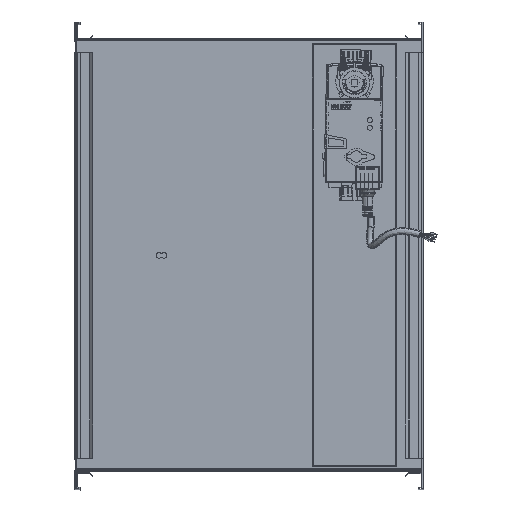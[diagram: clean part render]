
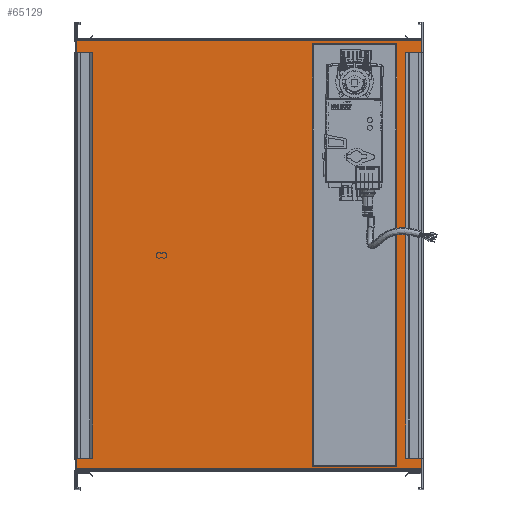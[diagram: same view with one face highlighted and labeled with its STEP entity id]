
A CAD part, top view. The second image highlights one B-rep face of the part: STEP entity #65129.
In plain terms, the highlighted planar face has unit normal (0, 0, 1).
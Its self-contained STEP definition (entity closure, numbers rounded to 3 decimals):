
#377 = VERTEX_POINT ( 'NONE', #5253 ) ;
#859 = CARTESIAN_POINT ( 'NONE',  ( -244.423, -233.848, 1550. ) ) ;
#1773 = PLANE ( 'NONE',  #39097 ) ;
#2069 = VECTOR ( 'NONE', #46362, 1000. ) ;
#2126 = DIRECTION ( 'NONE',  ( -1., 0., 0. ) ) ;
#2294 = VECTOR ( 'NONE', #84543, 1000. ) ;
#2357 = ORIENTED_EDGE ( 'NONE', *, *, #19788, .F. ) ;
#3030 = DIRECTION ( 'NONE',  ( 1., 0., 0. ) ) ;
#3726 = CARTESIAN_POINT ( 'NONE',  ( 155.577, -233.848, 1550. ) ) ;
#4077 = CARTESIAN_POINT ( 'NONE',  ( 155.577, -233.848, 1550. ) ) ;
#4805 = CARTESIAN_POINT ( 'NONE',  ( -244.423, -233.848, 1550. ) ) ;
#5253 = CARTESIAN_POINT ( 'NONE',  ( -244.423, -233.848, 1550. ) ) ;
#13259 = VERTEX_POINT ( 'NONE', #24564 ) ;
#13658 = DIRECTION ( 'NONE',  ( 1., 0., 0. ) ) ;
#16119 = DIRECTION ( 'NONE',  ( 0., -1., 0. ) ) ;
#16898 = LINE ( 'NONE', #32035, #83598 ) ;
#19788 = EDGE_CURVE ( 'NONE', #13259, #70452, #87073, .T. ) ;
#21528 = ORIENTED_EDGE ( 'NONE', *, *, #36560, .F. ) ;
#24533 = VERTEX_POINT ( 'NONE', #3726 ) ;
#24564 = CARTESIAN_POINT ( 'NONE',  ( 28.468, -231.848, 1550. ) ) ;
#25332 = EDGE_CURVE ( 'NONE', #83093, #377, #69845, .T. ) ;
#26529 = LINE ( 'NONE', #43028, #49967 ) ;
#27189 = ORIENTED_EDGE ( 'NONE', *, *, #69367, .T. ) ;
#28505 = EDGE_LOOP ( 'NONE', ( #88012, #35333, #53812, #27189 ) ) ;
#28691 = VERTEX_POINT ( 'NONE', #39070 ) ;
#29254 = DIRECTION ( 'NONE',  ( 1., 0., 0. ) ) ;
#30718 = CARTESIAN_POINT ( 'NONE',  ( 28.468, -231.848, 1550. ) ) ;
#32035 = CARTESIAN_POINT ( 'NONE',  ( -244.423, 262.152, 1550. ) ) ;
#35333 = ORIENTED_EDGE ( 'NONE', *, *, #47627, .F. ) ;
#36560 = EDGE_CURVE ( 'NONE', #70452, #28691, #54168, .T. ) ;
#36762 = VERTEX_POINT ( 'NONE', #44917 ) ;
#37352 = DIRECTION ( 'NONE',  ( 0., -1., 0. ) ) ;
#37446 = ORIENTED_EDGE ( 'NONE', *, *, #65556, .F. ) ;
#39070 = CARTESIAN_POINT ( 'NONE',  ( 126.468, 258.152, 1550. ) ) ;
#39097 = AXIS2_PLACEMENT_3D ( 'NONE', #859, #81051, #16119 ) ;
#39604 = ORIENTED_EDGE ( 'NONE', *, *, #45290, .F. ) ;
#40363 = DIRECTION ( 'NONE',  ( 0., 1., 0. ) ) ;
#43028 = CARTESIAN_POINT ( 'NONE',  ( -244.423, -233.848, 1550. ) ) ;
#44917 = CARTESIAN_POINT ( 'NONE',  ( 28.468, 258.152, 1550. ) ) ;
#45290 = EDGE_CURVE ( 'NONE', #36762, #13259, #73888, .T. ) ;
#45333 = EDGE_CURVE ( 'NONE', #77910, #24533, #53969, .T. ) ;
#45602 = CARTESIAN_POINT ( 'NONE',  ( 126.468, -231.848, 1550. ) ) ;
#46362 = DIRECTION ( 'NONE',  ( 0., -1., 0. ) ) ;
#46464 = VECTOR ( 'NONE', #29254, 1000. ) ;
#47627 = EDGE_CURVE ( 'NONE', #83093, #77910, #16898, .T. ) ;
#49169 = VECTOR ( 'NONE', #37352, 1000. ) ;
#49967 = VECTOR ( 'NONE', #13658, 1000. ) ;
#52163 = FACE_BOUND ( 'NONE', #52420, .T. ) ;
#52420 = EDGE_LOOP ( 'NONE', ( #2357, #39604, #37446, #21528 ) ) ;
#53812 = ORIENTED_EDGE ( 'NONE', *, *, #25332, .T. ) ;
#53969 = LINE ( 'NONE', #4077, #2069 ) ;
#54168 = LINE ( 'NONE', #62177, #68432 ) ;
#60167 = VECTOR ( 'NONE', #2126, 1000. ) ;
#62177 = CARTESIAN_POINT ( 'NONE',  ( 126.468, -231.848, 1550. ) ) ;
#63417 = CARTESIAN_POINT ( 'NONE',  ( 126.468, -231.848, 1550. ) ) ;
#65129 = ADVANCED_FACE ( 'NONE', ( #73003, #52163 ), #1773, .T. ) ;
#65556 = EDGE_CURVE ( 'NONE', #28691, #36762, #67632, .T. ) ;
#67632 = LINE ( 'NONE', #81883, #60167 ) ;
#68432 = VECTOR ( 'NONE', #40363, 1000. ) ;
#69367 = EDGE_CURVE ( 'NONE', #377, #24533, #26529, .T. ) ;
#69845 = LINE ( 'NONE', #4805, #2294 ) ;
#70452 = VERTEX_POINT ( 'NONE', #45602 ) ;
#71163 = CARTESIAN_POINT ( 'NONE',  ( -244.423, 262.152, 1550. ) ) ;
#73003 = FACE_OUTER_BOUND ( 'NONE', #28505, .T. ) ;
#73478 = CARTESIAN_POINT ( 'NONE',  ( 155.577, 262.152, 1550. ) ) ;
#73888 = LINE ( 'NONE', #30718, #49169 ) ;
#77910 = VERTEX_POINT ( 'NONE', #73478 ) ;
#81051 = DIRECTION ( 'NONE',  ( 0., 0., 1. ) ) ;
#81883 = CARTESIAN_POINT ( 'NONE',  ( 126.468, 258.152, 1550. ) ) ;
#83093 = VERTEX_POINT ( 'NONE', #71163 ) ;
#83598 = VECTOR ( 'NONE', #3030, 1000. ) ;
#84543 = DIRECTION ( 'NONE',  ( 0., -1., 0. ) ) ;
#87073 = LINE ( 'NONE', #63417, #46464 ) ;
#88012 = ORIENTED_EDGE ( 'NONE', *, *, #45333, .F. ) ;
